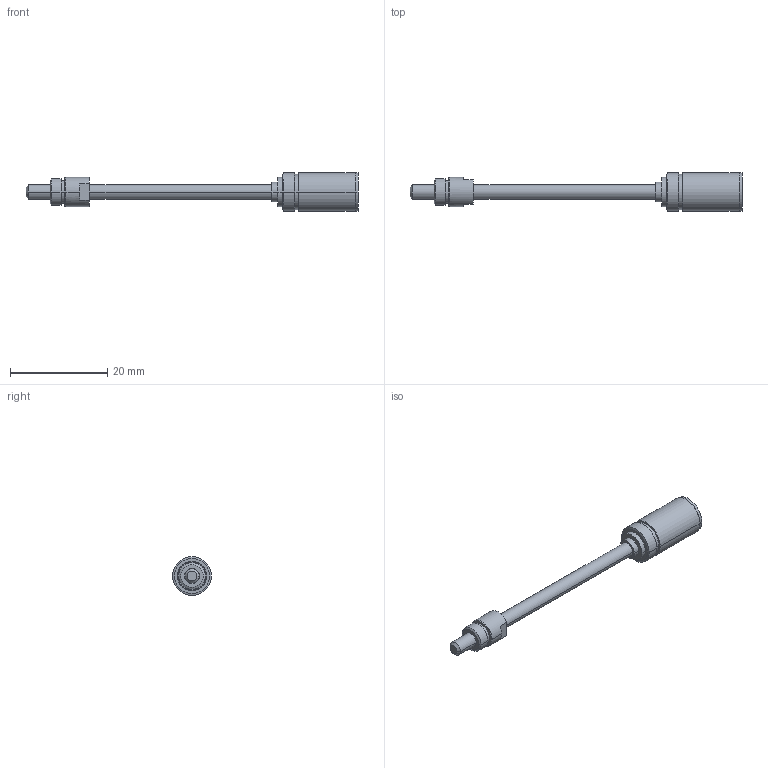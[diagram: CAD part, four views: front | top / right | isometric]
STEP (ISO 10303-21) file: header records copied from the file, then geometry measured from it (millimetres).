
FILE_DESCRIPTION((''),'2;1');
FILE_NAME('473645_GP8S-3ST','2016-10-05T',('mmagpetk'),(''),'CREO PARAMETRIC BY PTC INC, 2016050','CREO PARAMETRIC BY PTC INC, 2016050','');
FILE_SCHEMA(('CONFIG_CONTROL_DESIGN'));
Length unit declared in the file: millimetre
Products named in the file (1): 473645_GP8S-3ST
Bounding box: 68.2 x 8 x 8 mm (x, y, z)
Volume: 1093.3 mm3; surface area: 1265.2 mm2
Topology: 1 solids, 1 shells, 61 faces, 124 edges, 76 vertices
Faces by surface type: cylinder 26, plane 17, cone 16, torus 2
Entity records: 2725 total; most frequent: DIRECTION 320, CARTESIAN_POINT 261, ORIENTED_EDGE 248, PRESENTATION_STYLE_ASSIGNMENT 177, AXIS2_PLACEMENT_3D 135, STYLED_ITEM 125, CURVE_STYLE 124, EDGE_CURVE 124
